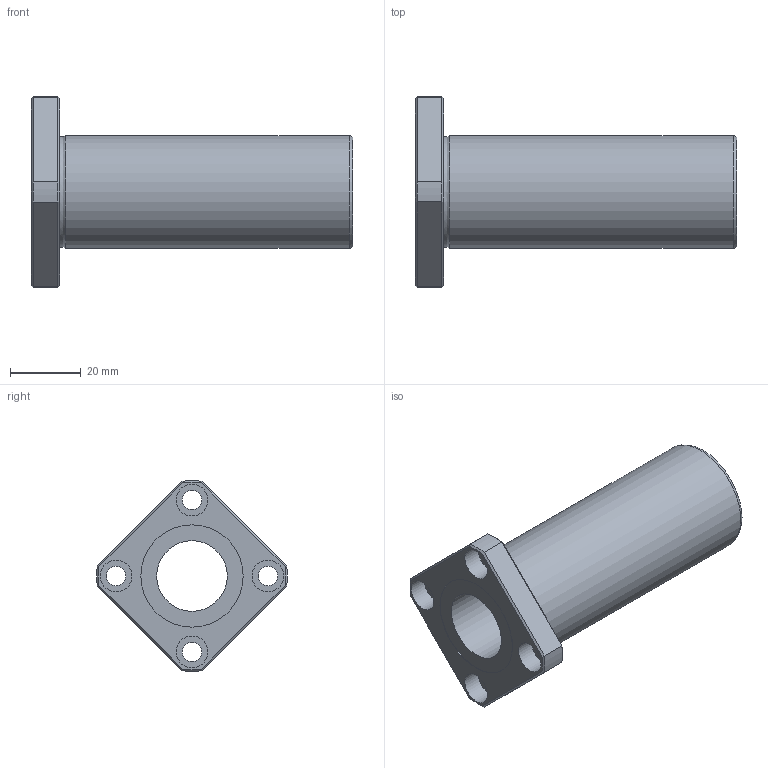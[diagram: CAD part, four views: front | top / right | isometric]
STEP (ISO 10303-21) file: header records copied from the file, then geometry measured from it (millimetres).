
FILE_DESCRIPTION((''),'2;1');
FILE_NAME('D:\製品 (図面)\カタログ用3D\メンテナンスフリー関連\STEP形式\LFDK-MF\LFDK20MF.stp','2010-06-01T15:43:49',('Tsuchiya'),(''),'Autodesk Inventor 10','Autodesk Inventor 10','');
FILE_SCHEMA(('AUTOMOTIVE_DESIGN { 1 0 10303 214 1 1 1 1 }'));
Length unit declared in the file: millimetre
Products named in the file (1): LFDK20MF
Bounding box: 91 x 53.97 x 53.97 mm (x, y, z)
Volume: 50247.1 mm3; surface area: 18671.4 mm2
Topology: 1 solids, 1 shells, 47 faces, 96 edges, 58 vertices
Faces by surface type: plane 21, cylinder 16, cone 8, torus 1, bspline 1
Full cylindrical faces by diameter (mm): 5.5 x4, 9 x4, 20 x1, 29 x2, 32 x1
Entity records: 1275 total; most frequent: CARTESIAN_POINT 298, DIRECTION 202, ORIENTED_EDGE 164, AXIS2_PLACEMENT_3D 89, EDGE_CURVE 82, EDGE_LOOP 78, VERTEX_POINT 58, FACE_OUTER_BOUND 47
